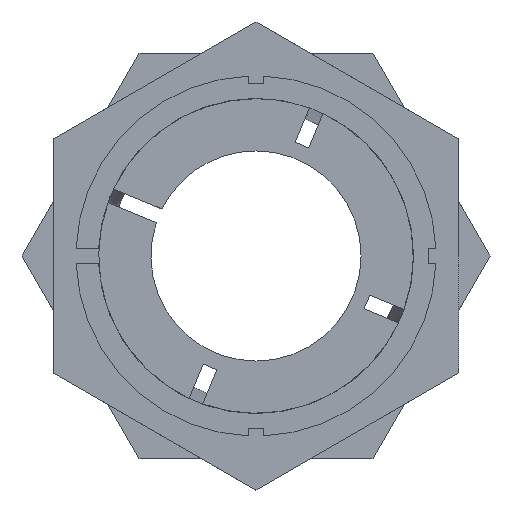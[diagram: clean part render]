
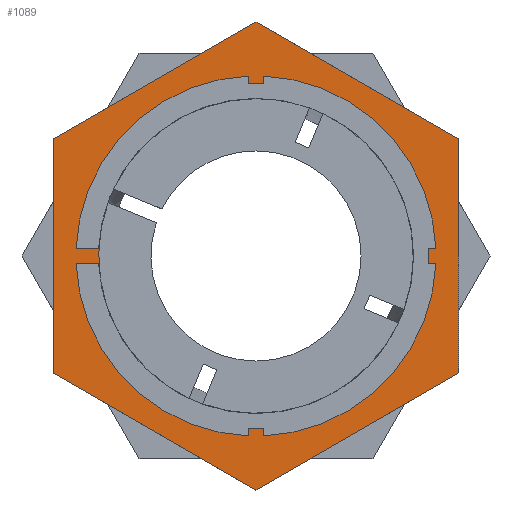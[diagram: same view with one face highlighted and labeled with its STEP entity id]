
A CAD part, left-side view. The second image highlights one B-rep face of the part: STEP entity #1089.
In plain terms, the highlighted planar face has unit normal (-1, 0, 0).
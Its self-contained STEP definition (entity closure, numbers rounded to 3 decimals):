
#224 = CARTESIAN_POINT ( 'NONE',  ( 15.52, 13.5, 7.794 ) ) ;
#227 = CARTESIAN_POINT ( 'NONE',  ( 15.52, 0., 0. ) ) ;
#228 = DIRECTION ( 'NONE',  ( -1., 0., 0. ) ) ;
#229 = DIRECTION ( 'NONE',  ( 0., 0., 1. ) ) ;
#230 = CARTESIAN_POINT ( 'NONE',  ( 15.52, 0., 15.588 ) ) ;
#231 = DIRECTION ( 'NONE',  ( 0., 0.866, -0.5 ) ) ;
#233 = DIRECTION ( 'NONE',  ( 0., 0.866, 0.5 ) ) ;
#236 = CARTESIAN_POINT ( 'NONE',  ( 15.52, -13.5, -7.794 ) ) ;
#237 = DIRECTION ( 'NONE',  ( 0., -0.866, 0.5 ) ) ;
#238 = CARTESIAN_POINT ( 'NONE',  ( 15.52, 0., -15.588 ) ) ;
#239 = DIRECTION ( 'NONE',  ( 0., -0.866, -0.5 ) ) ;
#240 = CARTESIAN_POINT ( 'NONE',  ( 15.52, -13.5, 7.794 ) ) ;
#241 = DIRECTION ( 'NONE',  ( 0., 0., 1. ) ) ;
#242 = CARTESIAN_POINT ( 'NONE',  ( 15.52, 13.5, -7.794 ) ) ;
#243 = DIRECTION ( 'NONE',  ( 0., 0., -1. ) ) ;
#301 = CARTESIAN_POINT ( 'NONE',  ( 15.52, 0., 0. ) ) ;
#310 = DIRECTION ( 'NONE',  ( -1., 0., 0. ) ) ;
#311 = DIRECTION ( 'NONE',  ( 0., 0., 1. ) ) ;
#823 = CARTESIAN_POINT ( 'NONE',  ( 15.52, -13.5, 7.794 ) ) ;
#910 = VERTEX_POINT ( 'NONE', #823 ) ;
#985 = VERTEX_POINT ( 'NONE', #2399 ) ;
#986 = VERTEX_POINT ( 'NONE', #2396 ) ;
#988 = VERTEX_POINT ( 'NONE', #2472 ) ;
#989 = VERTEX_POINT ( 'NONE', #2450 ) ;
#991 = VERTEX_POINT ( 'NONE', #2454 ) ;
#992 = VERTEX_POINT ( 'NONE', #2411 ) ;
#993 = VERTEX_POINT ( 'NONE', #2404 ) ;
#1015 = PLANE ( 'NONE',  #2297 ) ;
#1019 = CARTESIAN_POINT ( 'NONE',  ( 15.52, 50., 0. ) ) ;
#1034 = DIRECTION ( 'NONE',  ( 0., 0., -1. ) ) ;
#1035 = DIRECTION ( 'NONE',  ( 1., 0., 0. ) ) ;
#1089 = ADVANCED_FACE ( 'NONE', ( #1490, #1485 ), #1015, .F. ) ;
#1338 = CIRCLE ( 'NONE', #2332, 10.001 ) ;
#1391 = VECTOR ( 'NONE', #243, 1000. ) ;
#1392 = LINE ( 'NONE', #242, #1391 ) ;
#1393 = VECTOR ( 'NONE', #241, 1000. ) ;
#1394 = LINE ( 'NONE', #240, #1393 ) ;
#1395 = VECTOR ( 'NONE', #239, 1000. ) ;
#1397 = LINE ( 'NONE', #238, #1395 ) ;
#1398 = VECTOR ( 'NONE', #237, 1000. ) ;
#1399 = LINE ( 'NONE', #236, #1398 ) ;
#1403 = VECTOR ( 'NONE', #233, 1000. ) ;
#1407 = CIRCLE ( 'NONE', #2322, 10.001 ) ;
#1408 = LINE ( 'NONE', #224, #1416 ) ;
#1409 = LINE ( 'NONE', #230, #1403 ) ;
#1416 = VECTOR ( 'NONE', #231, 1000. ) ;
#1485 = FACE_OUTER_BOUND ( 'NONE', #1649, .T. ) ;
#1490 = FACE_BOUND ( 'NONE', #1659, .T. ) ;
#1649 = EDGE_LOOP ( 'NONE', ( #1758, #1757, #1756, #1755, #1754, #1753 ) ) ;
#1659 = EDGE_LOOP ( 'NONE', ( #1760, #1759 ) ) ;
#1753 = ORIENTED_EDGE ( 'NONE', *, *, #2061, .T. ) ;
#1754 = ORIENTED_EDGE ( 'NONE', *, *, #2065, .T. ) ;
#1755 = ORIENTED_EDGE ( 'NONE', *, *, #2063, .T. ) ;
#1756 = ORIENTED_EDGE ( 'NONE', *, *, #2064, .T. ) ;
#1757 = ORIENTED_EDGE ( 'NONE', *, *, #2066, .T. ) ;
#1758 = ORIENTED_EDGE ( 'NONE', *, *, #2060, .T. ) ;
#1759 = ORIENTED_EDGE ( 'NONE', *, *, #2094, .F. ) ;
#1760 = ORIENTED_EDGE ( 'NONE', *, *, #2059, .F. ) ;
#2059 = EDGE_CURVE ( 'NONE', #988, #992, #1407, .T. ) ;
#2060 = EDGE_CURVE ( 'NONE', #989, #993, #1408, .T. ) ;
#2061 = EDGE_CURVE ( 'NONE', #910, #989, #1409, .T. ) ;
#2063 = EDGE_CURVE ( 'NONE', #986, #985, #1399, .T. ) ;
#2064 = EDGE_CURVE ( 'NONE', #991, #986, #1397, .T. ) ;
#2065 = EDGE_CURVE ( 'NONE', #985, #910, #1394, .T. ) ;
#2066 = EDGE_CURVE ( 'NONE', #993, #991, #1392, .T. ) ;
#2094 = EDGE_CURVE ( 'NONE', #992, #988, #1338, .T. ) ;
#2297 = AXIS2_PLACEMENT_3D ( 'NONE', #1019, #1035, #1034 ) ;
#2322 = AXIS2_PLACEMENT_3D ( 'NONE', #227, #228, #229 ) ;
#2332 = AXIS2_PLACEMENT_3D ( 'NONE', #301, #310, #311 ) ;
#2396 = CARTESIAN_POINT ( 'NONE',  ( 15.52, 0., -15.588 ) ) ;
#2399 = CARTESIAN_POINT ( 'NONE',  ( 15.52, -13.5, -7.794 ) ) ;
#2404 = CARTESIAN_POINT ( 'NONE',  ( 15.52, 13.5, 7.794 ) ) ;
#2411 = CARTESIAN_POINT ( 'NONE',  ( 15.52, 0., -10.001 ) ) ;
#2450 = CARTESIAN_POINT ( 'NONE',  ( 15.52, 0., 15.588 ) ) ;
#2454 = CARTESIAN_POINT ( 'NONE',  ( 15.52, 13.5, -7.794 ) ) ;
#2472 = CARTESIAN_POINT ( 'NONE',  ( 15.52, 0., 10.001 ) ) ;
